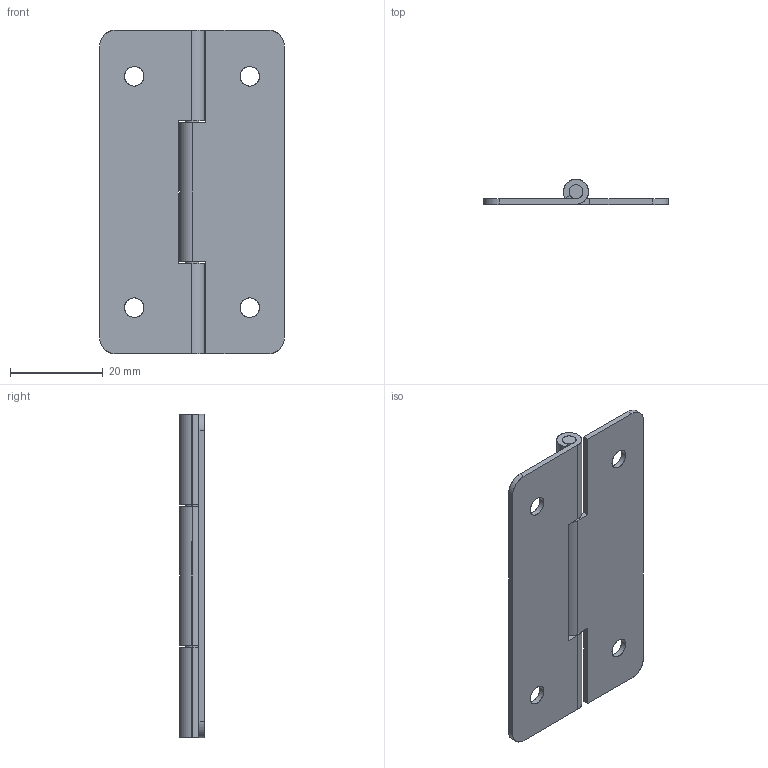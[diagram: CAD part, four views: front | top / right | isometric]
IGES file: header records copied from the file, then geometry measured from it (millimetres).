
Start section: SolidWorks IGES file using analytic representation for surfaces
Global section: file name: C:\Users\cbrechard\Desktop\CL 419.IGS; native system: SolidWorks 2017; preprocessor: SolidWorks 2017; author: cbrechard; date: 190909.134912; units: millimetre
Bounding box: 40 x 5.4 x 70 mm (x, y, z)
Surface area: 7820.1 mm2 (no closed solid volume)
Topology: 0 solids, 0 shells, 54 faces, 920 edges, 920 vertices
Faces by surface type: revolution 32, bspline 22
